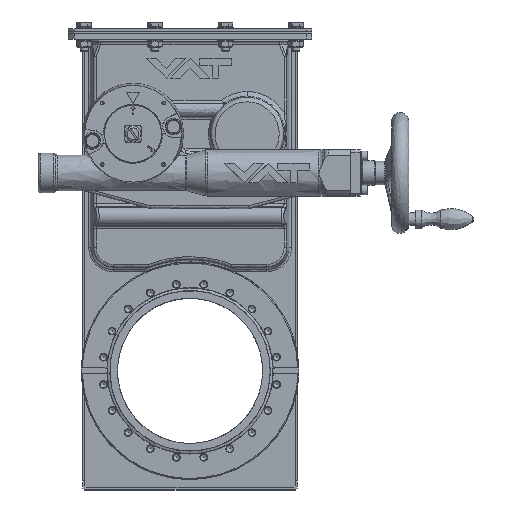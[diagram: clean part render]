
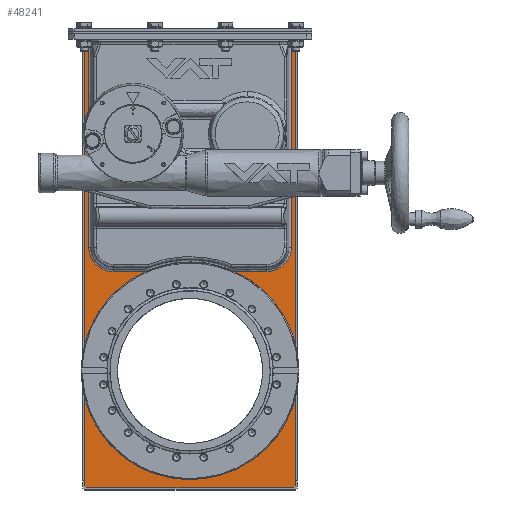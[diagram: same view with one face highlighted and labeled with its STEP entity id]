
A CAD part, top view. The second image highlights one B-rep face of the part: STEP entity #48241.
In plain terms, the highlighted free-form (B-spline) face has degree [1, 1] with [2, 2] control points.
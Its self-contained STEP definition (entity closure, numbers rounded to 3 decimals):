
#41376=CARTESIAN_POINT('V252',(-267.8,
   2.,0.));
#41377=VERTEX_POINT('V252',#41376);
#41378=CARTESIAN_POINT('E401',(-267.8,
   2.,0.));
#41379=CARTESIAN_POINT('E401',(-267.8,
   2.,129.99));
#41380=CARTESIAN_POINT('E401',(-380.375,
   2.,64.995));
#41381=CARTESIAN_POINT('E401',(-492.95,
   2.,0.));
#41382=CARTESIAN_POINT('E401',(-380.375,
   2.,-64.995));
#41383=CARTESIAN_POINT('E401',(-267.8,
   2.,-129.99));
#41384=CARTESIAN_POINT('E401',(-267.8,
   2.,0.));
#41392=(BOUNDED_CURVE()B_SPLINE_CURVE(2,(#41378,#41379,#41380,
   #41381,#41382,#41383,#41384),.CIRCULAR_ARC.,.T.,.U.)
   B_SPLINE_CURVE_WITH_KNOTS((3,2,2,3),(0.0,0.333,
   0.667,1.0),.UNSPECIFIED.)CURVE()
   GEOMETRIC_REPRESENTATION_ITEM()RATIONAL_B_SPLINE_CURVE((1.0,
   0.5,1.0,0.5,1.0,0.5,1.0)
   )REPRESENTATION_ITEM('E401'));
#41393=EDGE_CURVE('E401',#41377,#41377,#41392,.T.);
#41455=CARTESIAN_POINT('V222',(-4.,2.0,109.0));
#41456=VERTEX_POINT('V222',#41455);
#41470=CARTESIAN_POINT('V221',(-4.,2.0,
   104.741));
#41471=VERTEX_POINT('V221',#41470);
#41472=CARTESIAN_POINT('E296',(-4.,2.0,109.0));
#41473=CARTESIAN_POINT('E296',(-4.,2.0,
   104.741));
#41474=B_SPLINE_CURVE_WITH_KNOTS('E296',1,(#41472,#41473),
   .POLYLINE_FORM.,.F.,.U.,(2,2),(52.956,
   54.02),.UNSPECIFIED.);
#41475=EDGE_CURVE('E296',#41456,#41471,#41474,.T.);
#47126=CARTESIAN_POINT('V246',(-215.,
   2.,104.741));
#47127=VERTEX_POINT('V246',#47126);
#47128=CARTESIAN_POINT('E335',(-4.,2.0,
   104.741));
#47129=CARTESIAN_POINT('E335',(-215.,
   2.,104.741));
#47130=B_SPLINE_CURVE_WITH_KNOTS('E335',1,(#47128,#47129),
   .POLYLINE_FORM.,.F.,.U.,(2,2),(2.61,
   67.086),.UNSPECIFIED.);
#47131=EDGE_CURVE('E335',#41471,#47127,#47130,.T.);
#47184=CARTESIAN_POINT('V247',(-240.241,2.0,
   79.5));
#47185=VERTEX_POINT('V247',#47184);
#47186=CARTESIAN_POINT('E337',(-215.,
   2.,104.741));
#47187=CARTESIAN_POINT('E337',(-240.241,
   2.,104.741));
#47188=CARTESIAN_POINT('E337',(-240.241,2.0,
   79.5));
#47196=(BOUNDED_CURVE()B_SPLINE_CURVE(2,(#47186,#47187,#47188),
   .CIRCULAR_ARC.,.F.,.U.)B_SPLINE_CURVE_WITH_KNOTS((3,3),(2.0,
   14.116),.UNSPECIFIED.)CURVE()
   GEOMETRIC_REPRESENTATION_ITEM()RATIONAL_B_SPLINE_CURVE((1.0,
   0.707,1.0))REPRESENTATION_ITEM('E337'));
#47197=EDGE_CURVE('E337',#47127,#47185,#47196,.T.);
#47231=CARTESIAN_POINT('V245',(-240.241,2.0,
   46.733));
#47232=VERTEX_POINT('V245',#47231);
#47233=CARTESIAN_POINT('E338',(-240.241,2.0,
   79.5));
#47234=CARTESIAN_POINT('E338',(-240.241,2.0,
   46.733));
#47235=B_SPLINE_CURVE_WITH_KNOTS('E338',1,(#47233,#47234),
   .POLYLINE_FORM.,.F.,.U.,(2,2),(2.0,12.013),
   .UNSPECIFIED.);
#47236=EDGE_CURVE('E338',#47185,#47232,#47235,.T.);
#47283=CARTESIAN_POINT('V244',(-240.241,2.0,
   -46.733));
#47284=VERTEX_POINT('V244',#47283);
#47297=CARTESIAN_POINT('E331',(-240.241,
   2.,46.733));
#47298=CARTESIAN_POINT('E331',(-218.957,
   2.,0.));
#47299=CARTESIAN_POINT('E331',(-240.241,
   2.,-46.733));
#47307=(BOUNDED_CURVE()B_SPLINE_CURVE(2,(#47297,#47298,#47299),
   .ELLIPTIC_ARC.,.F.,.U.)B_SPLINE_CURVE_WITH_KNOTS((3,3),(2.0,
   26.541),.UNSPECIFIED.)CURVE()
   GEOMETRIC_REPRESENTATION_ITEM()RATIONAL_B_SPLINE_CURVE((1.0,
   0.91,1.0))REPRESENTATION_ITEM('E331'));
#47308=EDGE_CURVE('E331',#47232,#47284,#47307,.T.);
#47328=CARTESIAN_POINT('V248',(-240.241,2.0,
   -79.5));
#47329=VERTEX_POINT('V248',#47328);
#47330=CARTESIAN_POINT('E340',(-240.241,2.0,
   -46.733));
#47331=CARTESIAN_POINT('E340',(-240.241,2.0,
   -79.5));
#47332=B_SPLINE_CURVE_WITH_KNOTS('E340',1,(#47330,#47331),
   .POLYLINE_FORM.,.F.,.U.,(2,2),(2.,
   12.013),.UNSPECIFIED.);
#47333=EDGE_CURVE('E340',#47284,#47329,#47332,.T.);
#47386=CARTESIAN_POINT('V249',(-215.,2.0,
   -104.741));
#47387=VERTEX_POINT('V249',#47386);
#47388=CARTESIAN_POINT('E342',(-240.241,
   2.,-79.5));
#47389=CARTESIAN_POINT('E342',(-240.241,
   2.,-104.741));
#47390=CARTESIAN_POINT('E342',(-215.,2.0,
   -104.741));
#47398=(BOUNDED_CURVE()B_SPLINE_CURVE(2,(#47388,#47389,#47390),
   .CIRCULAR_ARC.,.F.,.U.)B_SPLINE_CURVE_WITH_KNOTS((3,3),(2.0,
   14.116),.UNSPECIFIED.)CURVE()
   GEOMETRIC_REPRESENTATION_ITEM()RATIONAL_B_SPLINE_CURVE((1.0,
   0.707,1.0))REPRESENTATION_ITEM('E342'));
#47399=EDGE_CURVE('E342',#47329,#47387,#47398,.T.);
#47454=CARTESIAN_POINT('V218',(-4.,2.0,
   -104.741));
#47455=VERTEX_POINT('V218',#47454);
#47456=CARTESIAN_POINT('E344',(-215.,2.0,
   -104.741));
#47457=CARTESIAN_POINT('E344',(-4.,2.0,
   -104.741));
#47458=B_SPLINE_CURVE_WITH_KNOTS('E344',1,(#47456,#47457),
   .POLYLINE_FORM.,.F.,.U.,(2,2),(2.0,66.477),
   .UNSPECIFIED.);
#47459=EDGE_CURVE('E344',#47387,#47455,#47458,.T.);
#47564=CARTESIAN_POINT('V217',(-4.,2.0,-109.0));
#47565=VERTEX_POINT('V217',#47564);
#47566=CARTESIAN_POINT('E292',(-4.,2.0,
   -104.741));
#47567=CARTESIAN_POINT('E292',(-4.,2.0,-109.0));
#47568=B_SPLINE_CURVE_WITH_KNOTS('E292',1,(#47566,#47567),
   .POLYLINE_FORM.,.F.,.U.,(2,2),(0.48,
   1.544),.UNSPECIFIED.);
#47569=EDGE_CURVE('E292',#47455,#47565,#47568,.T.);
#47595=CARTESIAN_POINT('V4',(-461.85,2.,
   -109.));
#47596=VERTEX_POINT('V4',#47595);
#47638=CARTESIAN_POINT('E305',(-461.85,2.0,-109.0));
#47639=CARTESIAN_POINT('E305',(-4.,2.0,-109.0));
#47640=B_SPLINE_CURVE_WITH_KNOTS('E305',1,(#47638,#47639),
   .POLYLINE_FORM.,.F.,.U.,(2,2),(0.004,1.0),
   .UNSPECIFIED.);
#47641=EDGE_CURVE('E305',#47596,#47565,#47640,.T.);
#48174=CARTESIAN_POINT('V6',(-461.85,2.0,109.0));
#48175=VERTEX_POINT('V6',#48174);
#48183=CARTESIAN_POINT('E314',(-4.,2.0,109.0));
#48184=CARTESIAN_POINT('E314',(-461.85,2.0,109.0));
#48185=B_SPLINE_CURVE_WITH_KNOTS('E314',1,(#48183,#48184),
   .POLYLINE_FORM.,.F.,.U.,(2,2),(0.0,0.996),
   .UNSPECIFIED.);
#48186=EDGE_CURVE('E314',#41456,#48175,#48185,.T.);
#48201=CARTESIAN_POINT('F150',(19.103,2.0,
   -121.112));
#48202=CARTESIAN_POINT('F150',(-463.962,2.0,
   -121.112));
#48203=CARTESIAN_POINT('F150',(19.103,2.0,
   121.112));
#48204=CARTESIAN_POINT('F150',(-463.962,2.0,
   121.112));
#48205=B_SPLINE_SURFACE_WITH_KNOTS('F150',1,1,((#48201,#48203),(
   #48202,#48204)),.PLANE_SURF.,.F.,.F.,.U.,(2,2),(2,2),(0.0,
   1.994),(0.0,1.0),.UNSPECIFIED.);
#48206=CARTESIAN_POINT('V3',(-463.85,2.0,
   -107.));
#48207=VERTEX_POINT('V3',#48206);
#48208=CARTESIAN_POINT('E3',(-461.85,2.,
   -109.));
#48209=CARTESIAN_POINT('E3',(-463.85,2.0,-107.0));
#48210=B_SPLINE_CURVE_WITH_KNOTS('E3',1,(#48208,#48209),
   .POLYLINE_FORM.,.F.,.U.,(2,2),(0.0,1.414),
   .UNSPECIFIED.);
#48211=EDGE_CURVE('E3',#47596,#48207,#48210,.T.);
#48212=ORIENTED_EDGE('E3',*,*,#48211,.F.);
#48213=ORIENTED_EDGE('F87',*,*,#47641,.T.);
#48214=ORIENTED_EDGE('E292',*,*,#47569,.F.);
#48215=ORIENTED_EDGE('E344',*,*,#47459,.F.);
#48216=ORIENTED_EDGE('E342',*,*,#47399,.F.);
#48217=ORIENTED_EDGE('E340',*,*,#47333,.F.);
#48218=ORIENTED_EDGE('F94',*,*,#47308,.F.);
#48219=ORIENTED_EDGE('E338',*,*,#47236,.F.);
#48220=ORIENTED_EDGE('E337',*,*,#47197,.F.);
#48221=ORIENTED_EDGE('E335',*,*,#47131,.F.);
#48222=ORIENTED_EDGE('E296',*,*,#41475,.F.);
#48223=ORIENTED_EDGE('E314',*,*,#48186,.T.);
#48224=CARTESIAN_POINT('V5',(-463.85,2.0,107.0));
#48225=VERTEX_POINT('V5',#48224);
#48226=CARTESIAN_POINT('E5',(-463.85,2.0,107.0));
#48227=CARTESIAN_POINT('E5',(-461.85,2.,
   109.));
#48228=B_SPLINE_CURVE_WITH_KNOTS('E5',1,(#48226,#48227),
   .POLYLINE_FORM.,.F.,.U.,(2,2),(0.0,1.414),
   .UNSPECIFIED.);
#48229=EDGE_CURVE('E5',#48225,#48175,#48228,.T.);
#48230=ORIENTED_EDGE('E5',*,*,#48229,.F.);
#48231=CARTESIAN_POINT('E215',(-463.85,2.0,107.0));
#48232=CARTESIAN_POINT('E215',(-463.85,2.0,
   -107.));
#48233=B_SPLINE_CURVE_WITH_KNOTS('E215',1,(#48231,#48232),
   .POLYLINE_FORM.,.F.,.U.,(2,2),(0.009,
   0.991),.UNSPECIFIED.);
#48234=EDGE_CURVE('E215',#48225,#48207,#48233,.T.);
#48235=ORIENTED_EDGE('E215',*,*,#48234,.T.);
#48236=EDGE_LOOP('F150',(#48212,#48213,#48214,#48215,#48216,#48217,
   #48218,#48219,#48220,#48221,#48222,#48223,#48230,#48235));
#48237=FACE_OUTER_BOUND('F150',#48236,.F.);
#48238=ORIENTED_EDGE('E401',*,*,#41393,.F.);
#48239=EDGE_LOOP('F150',(#48238));
#48240=FACE_BOUND('F150',#48239,.F.);
#48241=ADVANCED_FACE('F150',(#48237,#48240),#48205,.T.);
